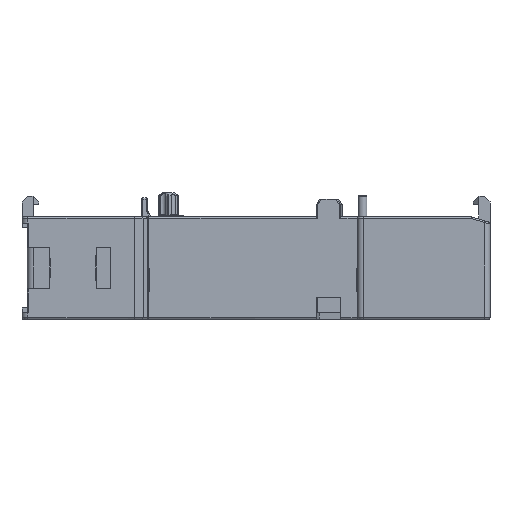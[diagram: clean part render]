
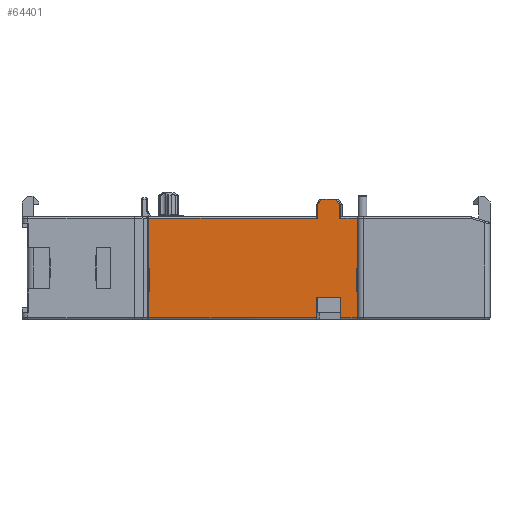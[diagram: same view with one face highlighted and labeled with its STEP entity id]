
A CAD part, front view. The second image highlights one B-rep face of the part: STEP entity #64401.
In plain terms, the highlighted planar face has unit normal (0, -1, 0).
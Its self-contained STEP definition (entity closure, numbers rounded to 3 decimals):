
#547=DIRECTION('',(0.,0.,1.));
#548=VECTOR('',#547,4.55);
#549=CARTESIAN_POINT('',(9.9,-46.,0.3));
#550=LINE('',#549,#548);
#563=DIRECTION('',(-1.,0.,0.));
#564=VECTOR('',#563,0.1);
#565=CARTESIAN_POINT('',(9.9,-46.,8.85));
#566=LINE('',#565,#564);
#13371=CARTESIAN_POINT('',(6.968,-46.,0.3));
#13381=CARTESIAN_POINT('',(2.805,-46.,0.3));
#15287=DIRECTION('',(0.,0.,-1.));
#15288=VECTOR('',#15287,4.);
#15289=CARTESIAN_POINT('',(-26.,-46.,8.85));
#15290=LINE('',#15289,#15288);
#15291=DIRECTION('',(-1.,0.,0.));
#15292=VECTOR('',#15291,0.1);
#15293=CARTESIAN_POINT('',(-26.,-46.,8.85));
#15294=LINE('',#15293,#15292);
#15367=DIRECTION('',(0.,0.,-1.));
#15368=VECTOR('',#15367,2.246);
#15369=CARTESIAN_POINT('',(2.992,-46.,19.646));
#15370=LINE('',#15369,#15368);
#15391=DIRECTION('',(1.,0.,0.));
#15392=VECTOR('',#15391,0.1);
#15393=CARTESIAN_POINT('',(-26.1,-46.,4.85));
#15394=LINE('',#15393,#15392);
#15395=DIRECTION('',(0.,0.,-1.));
#15396=VECTOR('',#15395,8.55);
#15397=CARTESIAN_POINT('',(-26.1,-46.,17.4));
#15398=LINE('',#15397,#15396);
#15399=DIRECTION('',(1.,0.,0.));
#15400=VECTOR('',#15399,29.092);
#15401=CARTESIAN_POINT('',(-26.1,-46.,17.4));
#15402=LINE('',#15401,#15400);
#15403=DIRECTION('',(-0.506,0.,-0.863));
#15404=VECTOR('',#15403,1.221);
#15405=CARTESIAN_POINT('',(3.61,-46.,20.7));
#15406=LINE('',#15405,#15404);
#15407=DIRECTION('',(-0.506,0.,0.863));
#15408=VECTOR('',#15407,1.221);
#15409=CARTESIAN_POINT('',(6.851,-46.,19.646));
#15410=LINE('',#15409,#15408);
#15411=DIRECTION('',(1.,0.,0.));
#15412=VECTOR('',#15411,3.049);
#15413=CARTESIAN_POINT('',(6.851,-46.,17.4));
#15414=LINE('',#15413,#15412);
#15415=DIRECTION('',(0.,0.,-1.));
#15416=VECTOR('',#15415,8.55);
#15417=CARTESIAN_POINT('',(9.9,-46.,17.4));
#15418=LINE('',#15417,#15416);
#15419=DIRECTION('',(0.,0.,-1.));
#15420=VECTOR('',#15419,4.);
#15421=CARTESIAN_POINT('',(9.8,-46.,8.85));
#15422=LINE('',#15421,#15420);
#15423=DIRECTION('',(1.,0.,0.));
#15424=VECTOR('',#15423,0.1);
#15425=CARTESIAN_POINT('',(9.8,-46.,4.85));
#15426=LINE('',#15425,#15424);
#15427=DIRECTION('',(-1.,0.,0.));
#15428=VECTOR('',#15427,2.932);
#15429=CARTESIAN_POINT('',(9.9,-46.,0.3));
#15430=LINE('',#15429,#15428);
#15431=DIRECTION('',(0.,0.,1.));
#15432=VECTOR('',#15431,3.5);
#15433=CARTESIAN_POINT('',(6.968,-46.,0.3));
#15434=LINE('',#15433,#15432);
#15435=DIRECTION('',(-1.,0.,0.));
#15436=VECTOR('',#15435,4.163);
#15437=CARTESIAN_POINT('',(6.968,-46.,3.8));
#15438=LINE('',#15437,#15436);
#15439=DIRECTION('',(0.,0.,1.));
#15440=VECTOR('',#15439,3.5);
#15441=CARTESIAN_POINT('',(2.805,-46.,0.3));
#15442=LINE('',#15441,#15440);
#15443=DIRECTION('',(-1.,0.,0.));
#15444=VECTOR('',#15443,28.905);
#15445=CARTESIAN_POINT('',(2.805,-46.,0.3));
#15446=LINE('',#15445,#15444);
#15447=DIRECTION('',(0.,0.,1.));
#15448=VECTOR('',#15447,4.55);
#15449=CARTESIAN_POINT('',(-26.1,-46.,0.3));
#15450=LINE('',#15449,#15448);
#15454=CARTESIAN_POINT('',(3.61,-46.,20.7));
#15500=CARTESIAN_POINT('',(6.233,-46.,20.7));
#15505=DIRECTION('',(1.,0.,0.));
#15506=VECTOR('',#15505,2.623);
#15507=CARTESIAN_POINT('',(3.61,-46.,20.7));
#15508=LINE('',#15507,#15506);
#15662=DIRECTION('',(0.,0.,1.));
#15663=VECTOR('',#15662,2.246);
#15664=CARTESIAN_POINT('',(6.851,-46.,17.4));
#15665=LINE('',#15664,#15663);
#36492=CARTESIAN_POINT('',(-26.1,-46.,4.85));
#36493=VERTEX_POINT('',#36492);
#36494=CARTESIAN_POINT('',(9.9,-46.,4.85));
#36495=VERTEX_POINT('',#36494);
#36905=CARTESIAN_POINT('',(6.968,-46.,3.8));
#36906=CARTESIAN_POINT('',(2.805,-46.,3.8));
#36907=VERTEX_POINT('',#36905);
#36908=VERTEX_POINT('',#36906);
#37863=CARTESIAN_POINT('',(9.9,-46.,0.3));
#37864=VERTEX_POINT('',#37863);
#37868=VERTEX_POINT('',#13371);
#37897=VERTEX_POINT('',#13381);
#37901=CARTESIAN_POINT('',(-26.1,-46.,0.3));
#37902=VERTEX_POINT('',#37901);
#42674=CARTESIAN_POINT('',(9.8,-46.,8.85));
#42676=VERTEX_POINT('',#42674);
#42677=CARTESIAN_POINT('',(-26.,-46.,8.85));
#42679=VERTEX_POINT('',#42677);
#43399=CARTESIAN_POINT('',(-26.1,-46.,17.4));
#43400=VERTEX_POINT('',#43399);
#43403=CARTESIAN_POINT('',(2.992,-46.,17.4));
#43404=VERTEX_POINT('',#43403);
#43419=CARTESIAN_POINT('',(9.9,-46.,17.4));
#43420=VERTEX_POINT('',#43419);
#43953=VERTEX_POINT('',#15454);
#43954=CARTESIAN_POINT('',(2.992,-46.,19.646));
#43955=VERTEX_POINT('',#43954);
#43974=VERTEX_POINT('',#15500);
#43978=CARTESIAN_POINT('',(6.851,-46.,19.646));
#43979=VERTEX_POINT('',#43978);
#43982=CARTESIAN_POINT('',(6.851,-46.,17.4));
#43983=VERTEX_POINT('',#43982);
#44667=CARTESIAN_POINT('',(9.9,-46.,8.85));
#44669=VERTEX_POINT('',#44667);
#44846=CARTESIAN_POINT('',(-26.1,-46.,8.85));
#44847=VERTEX_POINT('',#44846);
#44852=CARTESIAN_POINT('',(9.8,-46.,4.85));
#44853=VERTEX_POINT('',#44852);
#44854=CARTESIAN_POINT('',(-26.,-46.,4.85));
#44855=VERTEX_POINT('',#44854);
#64365=CARTESIAN_POINT('',(-27.1,-46.,1.15));
#64366=DIRECTION('',(0.,-1.,0.));
#64367=DIRECTION('',(1.,0.,0.));
#64368=AXIS2_PLACEMENT_3D('',#64365,#64366,#64367);
#64369=PLANE('',#64368);
#64370=ORIENTED_EDGE('',*,*,#64242,.T.);
#64371=ORIENTED_EDGE('',*,*,#64264,.F.);
#64372=ORIENTED_EDGE('',*,*,#64276,.T.);
#64373=ORIENTED_EDGE('',*,*,#64291,.F.);
#64374=ORIENTED_EDGE('',*,*,#64327,.T.);
#64375=ORIENTED_EDGE('',*,*,#64354,.F.);
#64377=ORIENTED_EDGE('',*,*,#64376,.F.);
#64379=ORIENTED_EDGE('',*,*,#64378,.T.);
#64381=ORIENTED_EDGE('',*,*,#64380,.F.);
#64383=ORIENTED_EDGE('',*,*,#64382,.F.);
#64385=ORIENTED_EDGE('',*,*,#64384,.T.);
#64386=ORIENTED_EDGE('',*,*,#45613,.T.);
#64387=ORIENTED_EDGE('',*,*,#45641,.T.);
#64389=ORIENTED_EDGE('',*,*,#64388,.T.);
#64390=ORIENTED_EDGE('',*,*,#64248,.T.);
#64391=ORIENTED_EDGE('',*,*,#45620,.F.);
#64392=ORIENTED_EDGE('',*,*,#61561,.T.);
#64393=ORIENTED_EDGE('',*,*,#61579,.T.);
#64395=ORIENTED_EDGE('',*,*,#64394,.T.);
#64396=ORIENTED_EDGE('',*,*,#61614,.F.);
#64397=ORIENTED_EDGE('',*,*,#61644,.T.);
#64398=ORIENTED_EDGE('',*,*,#64297,.T.);
#64399=EDGE_LOOP('',(#64370,#64371,#64372,#64373,#64374,#64375,#64377,#64379,
#64381,#64383,#64385,#64386,#64387,#64389,#64390,#64391,#64392,#64393,#64395,
#64396,#64397,#64398));
#64400=FACE_OUTER_BOUND('',#64399,.F.);
#64401=ADVANCED_FACE('',(#64400),#64369,.T.);
#45613=EDGE_CURVE('',#43420,#44669,#15418,.T.);
#45620=EDGE_CURVE('',#37864,#36495,#550,.T.);
#45641=EDGE_CURVE('',#44669,#42676,#566,.T.);
#61561=EDGE_CURVE('',#37864,#37868,#15430,.T.);
#61579=EDGE_CURVE('',#37868,#36907,#15434,.T.);
#61614=EDGE_CURVE('',#37897,#36908,#15442,.T.);
#61644=EDGE_CURVE('',#37897,#37902,#15446,.T.);
#64242=EDGE_CURVE('',#36493,#44855,#15394,.T.);
#64248=EDGE_CURVE('',#44853,#36495,#15426,.T.);
#64264=EDGE_CURVE('',#42679,#44855,#15290,.T.);
#64276=EDGE_CURVE('',#42679,#44847,#15294,.T.);
#64291=EDGE_CURVE('',#43400,#44847,#15398,.T.);
#64297=EDGE_CURVE('',#37902,#36493,#15450,.T.);
#64327=EDGE_CURVE('',#43400,#43404,#15402,.T.);
#64354=EDGE_CURVE('',#43955,#43404,#15370,.T.);
#64376=EDGE_CURVE('',#43953,#43955,#15406,.T.);
#64378=EDGE_CURVE('',#43953,#43974,#15508,.T.);
#64380=EDGE_CURVE('',#43979,#43974,#15410,.T.);
#64382=EDGE_CURVE('',#43983,#43979,#15665,.T.);
#64384=EDGE_CURVE('',#43983,#43420,#15414,.T.);
#64388=EDGE_CURVE('',#42676,#44853,#15422,.T.);
#64394=EDGE_CURVE('',#36907,#36908,#15438,.T.);
